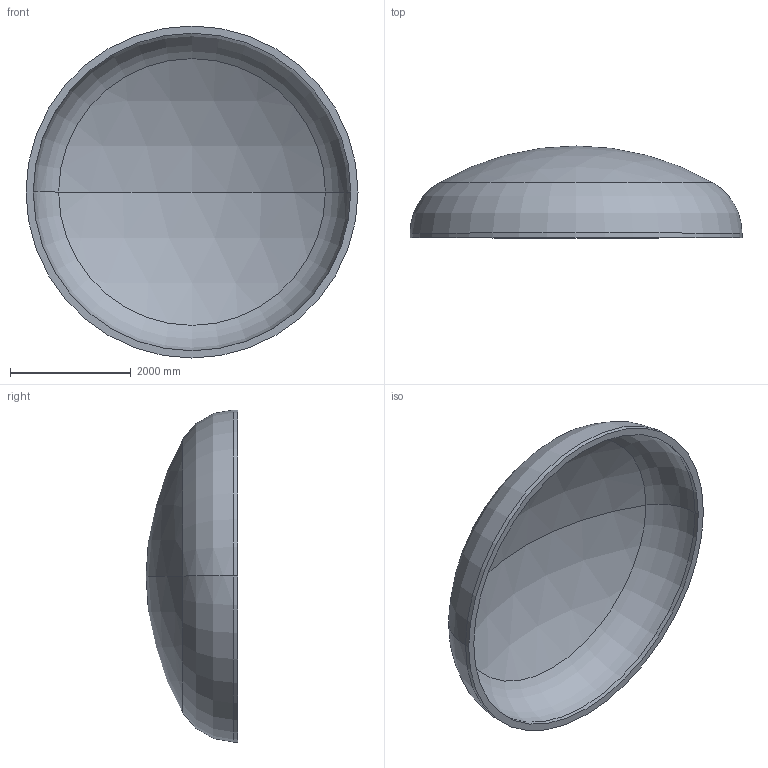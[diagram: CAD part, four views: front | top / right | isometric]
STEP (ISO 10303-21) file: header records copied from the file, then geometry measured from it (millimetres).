
FILE_DESCRIPTION (( 'STEP AP203' ), '1' );
FILE_NAME ('DIN 28013 Korbbogenform_-_Boden DIN 28013 - 5500 x 75 - I - s=120.step', '2016-07-04T10:35:29', ( '' ), ( '' ), 'SwSTEP 2.0', 'SolidWorks 2013', '' );
FILE_SCHEMA (( 'CONFIG_CONTROL_DESIGN' ));
Length unit declared in the file: millimetre
Products named in the file (1): DIN 28013 Korbbogenform_-_Boden DIN 28013 - 5500 x 75 - I - s=120
Bounding box: 5500 x 1520.62 x 5500 mm (x, y, z)
Volume: 3987239574.5 mm3; surface area: 68512340.1 mm2
Topology: 1 solids, 1 shells, 13 faces, 24 edges, 14 vertices
Faces by surface type: torus 4, cylinder 4, sphere 4, plane 1
Entity records: 407 total; most frequent: DIRECTION 72, CARTESIAN_POINT 52, ORIENTED_EDGE 48, AXIS2_PLACEMENT_3D 34, EDGE_CURVE 24, CIRCLE 20, EDGE_LOOP 14, VERTEX_POINT 14
